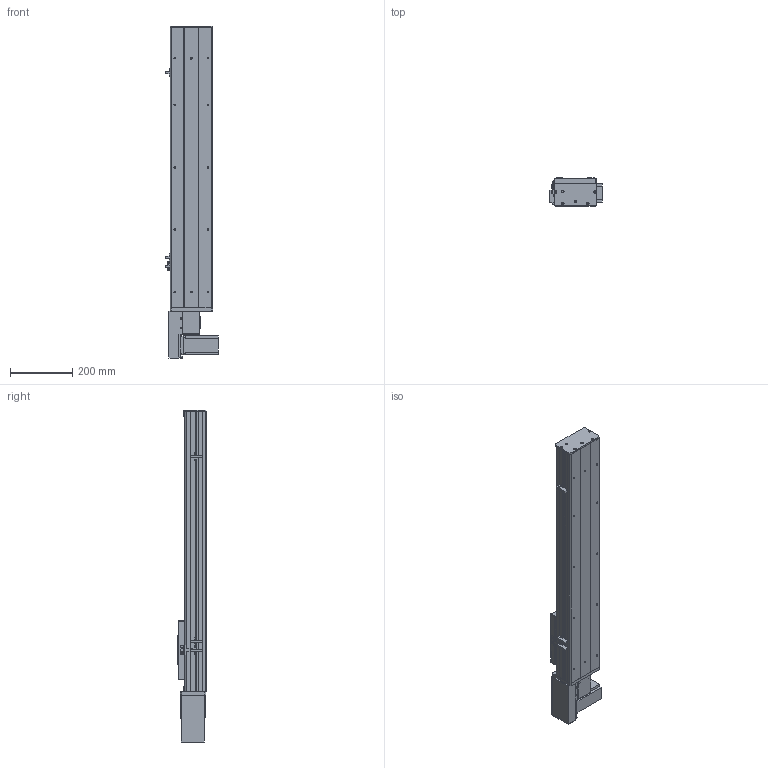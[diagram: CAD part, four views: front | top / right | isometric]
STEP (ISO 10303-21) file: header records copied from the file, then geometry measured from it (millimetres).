
FILE_DESCRIPTION (( 'STEP AP203' ), '1' );
FILE_NAME ('Y135CB-D90-S600-BR-P400W.STEP', '2020-02-18T02:15:05', ( '微软用户' ), ( '微软中国' ), 'SwSTEP 2.0', 'SolidWorks 2017', '' );
FILE_SCHEMA (( 'CONFIG_CONTROL_DESIGN' ));
Length unit declared in the file: millimetre
Products named in the file (18): C-詩湍揤踡え-陔; 35CB---喘謫眊楊擘啣; 135CB--詩湍-CE; Y10B-耜蚾蟀諉啣----; Y100-135俋离換覜ん--; Y俋欶BR----; Y135C-陔俋离換覜結え-; 0B-埴倛裔啣; 5C--俋欶; 0B-源倛裔啣; C-雄赽釱--; 0B-萇儂楊擘啣; Y10B--々湍喘謫眊--666; san松下电机400不带刹车----; Y135CB-耜裔; Y135CB-D90-S600-BR-P400W; 5CB --掛极耜裔啣-; 135CB---遴掛极.-
Assembly tree (21 placements, depth 2):
  Y135CB-D90-S600-BR-P400W
    Y135CB-耜裔
    135CB---遴掛极.-
    35CB---喘謫眊楊擘啣
    Y10B-耜蚾蟀諉啣----
    Y俋欶BR----
    0B-埴倛裔啣
    0B-源倛裔啣
    0B-萇儂楊擘啣
    san松下电机400不带刹车----
    5CB --掛极耜裔啣-  x2
    C-詩湍揤踡え-陔  x2
    135CB--詩湍-CE
    Y100-135俋离換覜ん--  x3
    Y135C-陔俋离換覜結え-
    5C--俋欶
    C-雄赽釱--
    Y10B--々湍喘謫眊--666
Bounding box: 167.5 x 91 x 1064.5 mm (x, y, z)
Volume: 3348537.8 mm3; surface area: 1300316.6 mm2
Topology: 21 solids, 21 shells, 937 faces, 2491 edges, 1650 vertices
Faces by surface type: cylinder 463, plane 458, cone 16
Entity records: 28937 total; most frequent: DIRECTION 4803, CARTESIAN_POINT 4724, ORIENTED_EDGE 4458, EDGE_CURVE 2229, AXIS2_PLACEMENT_3D 1745, VERTEX_POINT 1478, VECTOR 1313, LINE 1313
